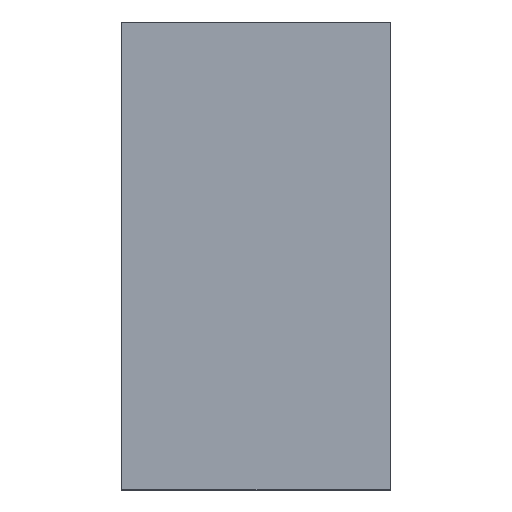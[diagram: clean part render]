
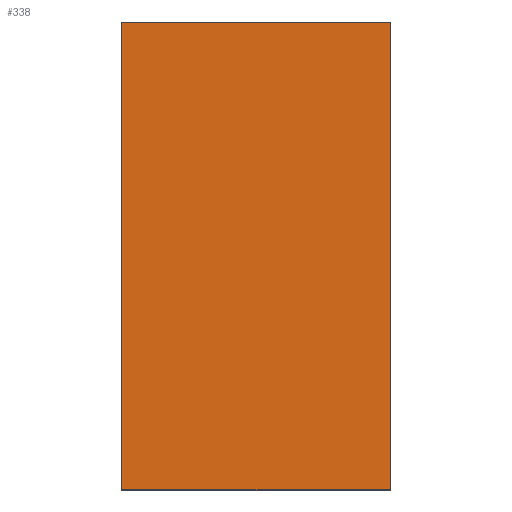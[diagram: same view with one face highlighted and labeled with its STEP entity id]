
A CAD part, top view. The second image highlights one B-rep face of the part: STEP entity #338.
In plain terms, the highlighted planar face has unit normal (0, 0, 1).
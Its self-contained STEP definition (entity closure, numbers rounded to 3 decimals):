
#24 = VERTEX_POINT('',#25);
#25 = CARTESIAN_POINT('',(0.5,-27.,-2.22));
#32 = PLANE('',#33);
#33 = AXIS2_PLACEMENT_3D('',#34,#35,#36);
#34 = CARTESIAN_POINT('',(0.5,-27.,-6.92));
#35 = DIRECTION('',(1.,0.,0.));
#36 = DIRECTION('',(0.,0.,1.));
#44 = PLANE('',#45);
#45 = AXIS2_PLACEMENT_3D('',#46,#47,#48);
#46 = CARTESIAN_POINT('',(0.5,-27.,-6.92));
#47 = DIRECTION('',(0.,1.,0.));
#48 = DIRECTION('',(0.,-0.,1.));
#85 = VERTEX_POINT('',#86);
#86 = CARTESIAN_POINT('',(0.5,0.,-2.22));
#100 = PLANE('',#101);
#101 = AXIS2_PLACEMENT_3D('',#102,#103,#104);
#102 = CARTESIAN_POINT('',(0.5,0.,-6.92));
#103 = DIRECTION('',(0.,1.,0.));
#104 = DIRECTION('',(0.,-0.,1.));
#112 = EDGE_CURVE('',#24,#85,#113,.T.);
#113 = SURFACE_CURVE('',#114,(#118,#125),.PCURVE_S1.);
#114 = LINE('',#115,#116);
#115 = CARTESIAN_POINT('',(0.5,-27.,-2.22));
#116 = VECTOR('',#117,1.);
#117 = DIRECTION('',(0.,1.,0.));
#118 = PCURVE('',#32,#119);
#119 = DEFINITIONAL_REPRESENTATION('',(#120),#124);
#120 = LINE('',#121,#122);
#121 = CARTESIAN_POINT('',(4.7,0.));
#122 = VECTOR('',#123,1.);
#123 = DIRECTION('',(0.,-1.));
#124 = ( GEOMETRIC_REPRESENTATION_CONTEXT(2) 
PARAMETRIC_REPRESENTATION_CONTEXT() REPRESENTATION_CONTEXT('2D SPACE',''
  ) );
#125 = PCURVE('',#126,#131);
#126 = PLANE('',#127);
#127 = AXIS2_PLACEMENT_3D('',#128,#129,#130);
#128 = CARTESIAN_POINT('',(0.5,-27.,-2.22));
#129 = DIRECTION('',(0.,0.,1.));
#130 = DIRECTION('',(1.,0.,-0.));
#131 = DEFINITIONAL_REPRESENTATION('',(#132),#136);
#132 = LINE('',#133,#134);
#133 = CARTESIAN_POINT('',(0.,0.));
#134 = VECTOR('',#135,1.);
#135 = DIRECTION('',(0.,1.));
#136 = ( GEOMETRIC_REPRESENTATION_CONTEXT(2) 
PARAMETRIC_REPRESENTATION_CONTEXT() REPRESENTATION_CONTEXT('2D SPACE',''
  ) );
#144 = VERTEX_POINT('',#145);
#145 = CARTESIAN_POINT('',(16.,-27.,-2.22));
#152 = PLANE('',#153);
#153 = AXIS2_PLACEMENT_3D('',#154,#155,#156);
#154 = CARTESIAN_POINT('',(16.,-27.,-6.92));
#155 = DIRECTION('',(1.,0.,0.));
#156 = DIRECTION('',(0.,0.,1.));
#195 = VERTEX_POINT('',#196);
#196 = CARTESIAN_POINT('',(16.,0.,-2.22));
#217 = EDGE_CURVE('',#144,#195,#218,.T.);
#218 = SURFACE_CURVE('',#219,(#223,#230),.PCURVE_S1.);
#219 = LINE('',#220,#221);
#220 = CARTESIAN_POINT('',(16.,-27.,-2.22));
#221 = VECTOR('',#222,1.);
#222 = DIRECTION('',(0.,1.,0.));
#223 = PCURVE('',#152,#224);
#224 = DEFINITIONAL_REPRESENTATION('',(#225),#229);
#225 = LINE('',#226,#227);
#226 = CARTESIAN_POINT('',(4.7,0.));
#227 = VECTOR('',#228,1.);
#228 = DIRECTION('',(0.,-1.));
#229 = ( GEOMETRIC_REPRESENTATION_CONTEXT(2) 
PARAMETRIC_REPRESENTATION_CONTEXT() REPRESENTATION_CONTEXT('2D SPACE',''
  ) );
#230 = PCURVE('',#126,#231);
#231 = DEFINITIONAL_REPRESENTATION('',(#232),#236);
#232 = LINE('',#233,#234);
#233 = CARTESIAN_POINT('',(15.5,0.));
#234 = VECTOR('',#235,1.);
#235 = DIRECTION('',(0.,1.));
#236 = ( GEOMETRIC_REPRESENTATION_CONTEXT(2) 
PARAMETRIC_REPRESENTATION_CONTEXT() REPRESENTATION_CONTEXT('2D SPACE',''
  ) );
#263 = EDGE_CURVE('',#24,#144,#264,.T.);
#264 = SURFACE_CURVE('',#265,(#269,#276),.PCURVE_S1.);
#265 = LINE('',#266,#267);
#266 = CARTESIAN_POINT('',(0.5,-27.,-2.22));
#267 = VECTOR('',#268,1.);
#268 = DIRECTION('',(1.,0.,0.));
#269 = PCURVE('',#44,#270);
#270 = DEFINITIONAL_REPRESENTATION('',(#271),#275);
#271 = LINE('',#272,#273);
#272 = CARTESIAN_POINT('',(4.7,0.));
#273 = VECTOR('',#274,1.);
#274 = DIRECTION('',(0.,1.));
#275 = ( GEOMETRIC_REPRESENTATION_CONTEXT(2) 
PARAMETRIC_REPRESENTATION_CONTEXT() REPRESENTATION_CONTEXT('2D SPACE',''
  ) );
#276 = PCURVE('',#126,#277);
#277 = DEFINITIONAL_REPRESENTATION('',(#278),#282);
#278 = LINE('',#279,#280);
#279 = CARTESIAN_POINT('',(0.,0.));
#280 = VECTOR('',#281,1.);
#281 = DIRECTION('',(1.,0.));
#282 = ( GEOMETRIC_REPRESENTATION_CONTEXT(2) 
PARAMETRIC_REPRESENTATION_CONTEXT() REPRESENTATION_CONTEXT('2D SPACE',''
  ) );
#310 = EDGE_CURVE('',#85,#195,#311,.T.);
#311 = SURFACE_CURVE('',#312,(#316,#323),.PCURVE_S1.);
#312 = LINE('',#313,#314);
#313 = CARTESIAN_POINT('',(0.5,0.,-2.22));
#314 = VECTOR('',#315,1.);
#315 = DIRECTION('',(1.,0.,0.));
#316 = PCURVE('',#100,#317);
#317 = DEFINITIONAL_REPRESENTATION('',(#318),#322);
#318 = LINE('',#319,#320);
#319 = CARTESIAN_POINT('',(4.7,0.));
#320 = VECTOR('',#321,1.);
#321 = DIRECTION('',(0.,1.));
#322 = ( GEOMETRIC_REPRESENTATION_CONTEXT(2) 
PARAMETRIC_REPRESENTATION_CONTEXT() REPRESENTATION_CONTEXT('2D SPACE',''
  ) );
#323 = PCURVE('',#126,#324);
#324 = DEFINITIONAL_REPRESENTATION('',(#325),#329);
#325 = LINE('',#326,#327);
#326 = CARTESIAN_POINT('',(0.,27.));
#327 = VECTOR('',#328,1.);
#328 = DIRECTION('',(1.,0.));
#329 = ( GEOMETRIC_REPRESENTATION_CONTEXT(2) 
PARAMETRIC_REPRESENTATION_CONTEXT() REPRESENTATION_CONTEXT('2D SPACE',''
  ) );
#338 = ADVANCED_FACE('',(#339),#126,.T.);
#339 = FACE_BOUND('',#340,.T.);
#340 = EDGE_LOOP('',(#341,#342,#343,#344));
#341 = ORIENTED_EDGE('',*,*,#112,.F.);
#342 = ORIENTED_EDGE('',*,*,#263,.T.);
#343 = ORIENTED_EDGE('',*,*,#217,.T.);
#344 = ORIENTED_EDGE('',*,*,#310,.F.);
